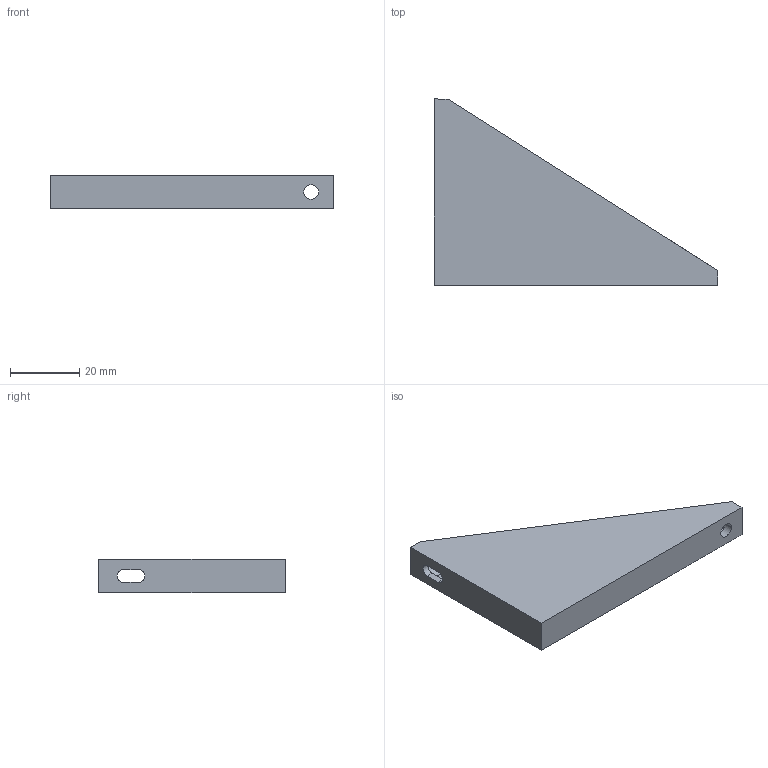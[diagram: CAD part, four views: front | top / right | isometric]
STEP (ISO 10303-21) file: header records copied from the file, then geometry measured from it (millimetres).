
FILE_DESCRIPTION (( 'STEP AP203' ), '1' );
FILE_NAME ('Frontabstützung_Winkel_V8_H77-200 und H200.STEP', '2025-04-02T13:30:08', ( '' ), ( '' ), 'SwSTEP 2.0', 'SolidWorks 2023', '' );
FILE_SCHEMA (( 'CONFIG_CONTROL_DESIGN' ));
Length unit declared in the file: millimetre
Products named in the file (1): Frontabstützung_Winkel_V8_H77-200 und H200
Bounding box: 82 x 53.9 x 9.6 mm (x, y, z)
Volume: 21764.6 mm3; surface area: 7917.9 mm2
Topology: 1 solids, 1 shells, 24 faces, 60 edges, 40 vertices
Faces by surface type: plane 17, cylinder 7
Entity records: 801 total; most frequent: CARTESIAN_POINT 131, DIRECTION 120, ORIENTED_EDGE 120, EDGE_CURVE 60, LINE 46, VECTOR 46, VERTEX_POINT 40, AXIS2_PLACEMENT_3D 37
